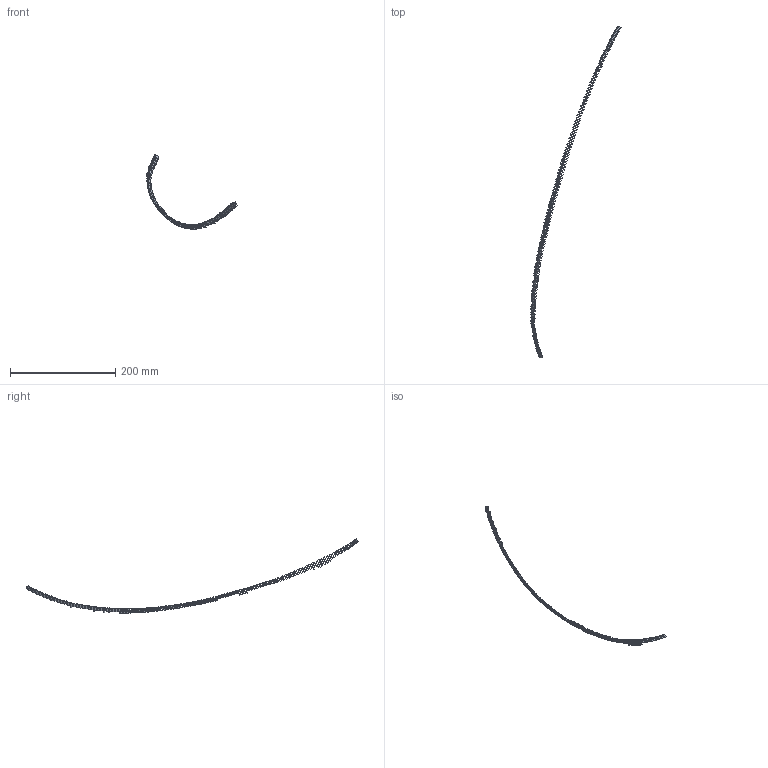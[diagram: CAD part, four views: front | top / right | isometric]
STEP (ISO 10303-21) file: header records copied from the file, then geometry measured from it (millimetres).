
FILE_DESCRIPTION(('FreeCAD Model'),'2;1');
FILE_NAME('Open CASCADE Shape Model','2022-05-22T07:50:31',('FreeCAD'),( 'FreeCAD'),'Open CASCADE STEP processor 7.5','FreeCAD','Unknown');
FILE_SCHEMA(('AUTOMOTIVE_DESIGN { 1 0 10303 214 1 1 1 1 }'));
Length unit declared in the file: millimetre
Products named in the file (224): Open CASCADE STEP translator 7.5 4; Open CASCADE STEP translator 7.5 4.1; Open CASCADE STEP translator 7.5 4.2; Open CASCADE STEP translator 7.5 4.3; Open CASCADE STEP translator 7.5 4.4; Open CASCADE STEP translator 7.5 4.5; Open CASCADE STEP translator 7.5 4.6; Open CASCADE STEP translator 7.5 4.7; Open CASCADE STEP translator 7.5 4.8; Open CASCADE STEP translator 7.5 4.9; Open CASCADE STEP translator 7.5 4.10; Open CASCADE STEP translator 7.5 4.11; Open CASCADE STEP translator 7.5 4.12; Open CASCADE STEP translator 7.5 4.13; Open CASCADE STEP translator 7.5 4.14; Open CASCADE STEP translator 7.5 4.15; Open CASCADE STEP translator 7.5 4.16; Open CASCADE STEP translator 7.5 4.17; Open CASCADE STEP translator 7.5 4.18; Open CASCADE STEP translator 7.5 4.19; Open CASCADE STEP translator 7.5 4.20; Open CASCADE STEP translator 7.5 4.21; Open CASCADE STEP translator 7.5 4.22; Open CASCADE STEP translator 7.5 4.23; Open CASCADE STEP translator 7.5 4.24; Open CASCADE STEP translator 7.5 4.25; Open CASCADE STEP translator 7.5 4.26; Open CASCADE STEP translator 7.5 4.27; Open CASCADE STEP translator 7.5 4.28; Open CASCADE STEP translator 7.5 4.29; Open CASCADE STEP translator 7.5 4.30; Open CASCADE STEP translator 7.5 4.31; Open CASCADE STEP translator 7.5 4.32; Open CASCADE STEP translator 7.5 4.33; Open CASCADE STEP translator 7.5 4.34; Open CASCADE STEP translator 7.5 4.35; Open CASCADE STEP translator 7.5 4.36; Open CASCADE STEP translator 7.5 4.37; Open CASCADE STEP translator 7.5 4.38; Open CASCADE STEP translator 7.5 4.39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
Assembly tree (223 placements, depth 2):
  Open CASCADE STEP translator 7.5 4
    Open CASCADE STEP translator 7.5 4.1
    Open CASCADE STEP translator 7.5 4.2
    Open CASCADE STEP translator 7.5 4.3
    Open CASCADE STEP translator 7.5 4.4
    Open CASCADE STEP translator 7.5 4.5
    Open CASCADE STEP translator 7.5 4.6
    Open CASCADE STEP translator 7.5 4.7
    Open CASCADE STEP translator 7.5 4.8
    Open CASCADE STEP translator 7.5 4.9
    Open CASCADE STEP translator 7.5 4.10
    Open CASCADE STEP translator 7.5 4.11
    Open CASCADE STEP translator 7.5 4.12
    Open CASCADE STEP translator 7.5 4.13
    Open CASCADE STEP translator 7.5 4.14
    Open CASCADE STEP translator 7.5 4.15
    Open CASCADE STEP translator 7.5 4.16
    Open CASCADE STEP translator 7.5 4.17
    Open CASCADE STEP translator 7.5 4.18
    Open CASCADE STEP translator 7.5 4.19
    Open CASCADE STEP translator 7.5 4.20
    Open CASCADE STEP translator 7.5 4.21
    Open CASCADE STEP translator 7.5 4.22
    Open CASCADE STEP translator 7.5 4.23
    Open CASCADE STEP translator 7.5 4.24
    Open CASCADE STEP translator 7.5 4.25
    Open CASCADE STEP translator 7.5 4.26
    Open CASCADE STEP translator 7.5 4.27
    Open CASCADE STEP translator 7.5 4.28
    Open CASCADE STEP translator 7.5 4.29
    Open CASCADE STEP translator 7.5 4.30
    Open CASCADE STEP translator 7.5 4.31
    Open CASCADE STEP translator 7.5 4.32
    Open CASCADE STEP translator 7.5 4.33
    Open CASCADE STEP translator 7.5 4.34
    Open CASCADE STEP translator 7.5 4.35
    Open CASCADE STEP translator 7.5 4.36
    Open CASCADE STEP translator 7.5 4.37
    Open CASCADE STEP translator 7.5 4.38
    Open CASCADE STEP translator 7.5 4.39
    Open CASCADE STEP translator 7.5 4.40
    Open CASCADE STEP translator 7.5 4.41
    Open CASCADE STEP translator 7.5 4.42
    Open CASCADE STEP translator 7.5 4.43
    Open CASCADE STEP translator 7.5 4.44
    Open CASCADE STEP translator 7.5 4.45
    Open CASCADE STEP translator 7.5 4.46
    Open CASCADE STEP translator 7.5 4.47
    Open CASCADE STEP translator 7.5 4.48
    Open CASCADE STEP translator 7.5 4.49
    Open CASCADE STEP translator 7.5 4.50
    Open CASCADE STEP translator 7.5 4.51
    Open CASCADE STEP translator 7.5 4.52
    Open CASCADE STEP translator 7.5 4.53
    Open CASCADE STEP translator 7.5 4.54
    Open CASCADE STEP translator 7.5 4.55
    Open CASCADE STEP translator 7.5 4.56
    Open CASCADE STEP translator 7.5 4.57
    Open CASCADE STEP translator 7.5 4.58
    Open CASCADE STEP translator 7.5 4.59
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Bounding box: 172.5 x 630.54 x 141.23 mm (x, y, z)
Surface area: 7732.2 mm2 (no closed solid volume)
Topology: 0 solids, 223 shells, 223 faces, 9361 edges, 9361 vertices
Faces by surface type: bspline 223
Entity records: 127953 total; most frequent: CARTESIAN_POINT 47921, B_SPLINE_CURVE_WITH_KNOTS 18722, ORIENTED_EDGE 9361, EDGE_CURVE 9361, VERTEX_POINT 9361, SURFACE_CURVE 9361, PCURVE 9361, DEFINITIONAL_REPRESENTATION 9361
